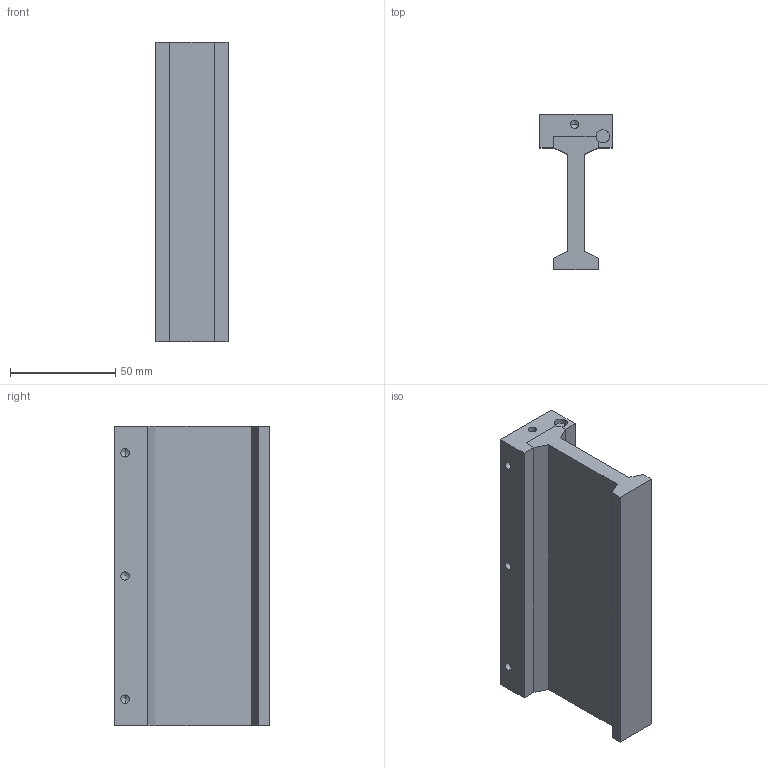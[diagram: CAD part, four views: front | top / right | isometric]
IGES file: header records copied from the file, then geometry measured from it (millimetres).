
Global section: file name: No Iges File Name specified; native system: AutoDesk Inventor R11.0; preprocessor: AutoDesk Inventor Iges Exporter R11.0; author: No Author specified; organization: No Organization specified; date: 20080205.101044; units: inch
Bounding box: 34.29 x 73.66 x 142.24 mm (x, y, z)
Volume: 157750.7 mm3; surface area: 35841.2 mm2
Topology: 1 solids, 1 shells, 41 faces, 105 edges, 61 vertices
Faces by surface type: bspline 20, plane 19, revolution 2
